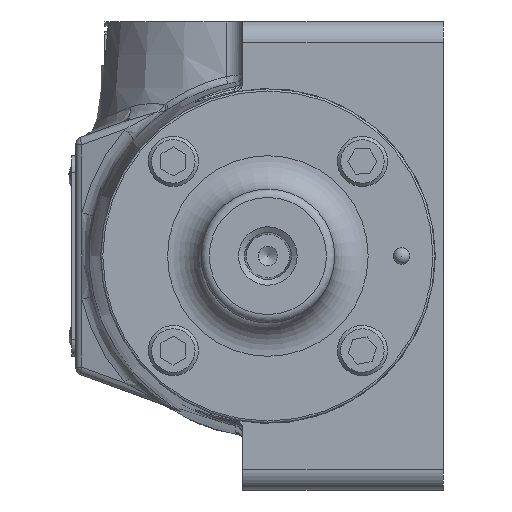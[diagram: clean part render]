
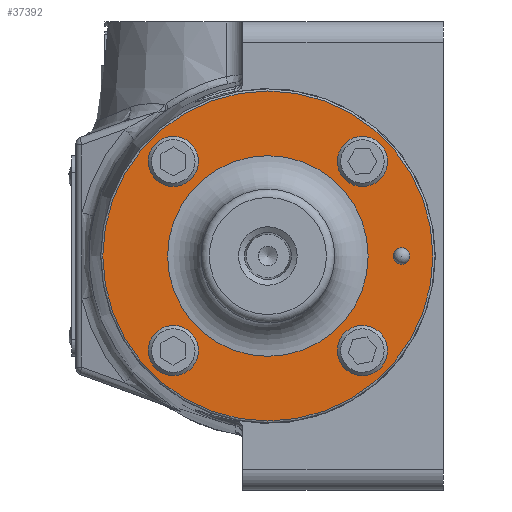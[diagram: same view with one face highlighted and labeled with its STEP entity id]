
A CAD part, left-side view. The second image highlights one B-rep face of the part: STEP entity #37392.
In plain terms, the highlighted planar face has unit normal (-1, 0, 0).
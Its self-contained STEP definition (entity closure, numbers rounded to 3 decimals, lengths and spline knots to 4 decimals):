
#2252=FACE_BOUND('',#5626,.T.);
#2253=FACE_BOUND('',#5627,.T.);
#2254=FACE_BOUND('',#5628,.T.);
#2255=FACE_BOUND('',#5629,.T.);
#2256=FACE_BOUND('',#5630,.T.);
#2257=FACE_BOUND('',#5631,.T.);
#2487=PLANE('',#39767);
#3360=FACE_OUTER_BOUND('',#5625,.T.);
#5625=EDGE_LOOP('',(#23880));
#5626=EDGE_LOOP('',(#23881));
#5627=EDGE_LOOP('',(#23882));
#5628=EDGE_LOOP('',(#23883));
#5629=EDGE_LOOP('',(#23884));
#5630=EDGE_LOOP('',(#23885));
#5631=EDGE_LOOP('',(#23886));
#8102=CIRCLE('',#39768,3.1353);
#8103=CIRCLE('',#39769,0.4763);
#8104=CIRCLE('',#39770,0.4763);
#8105=CIRCLE('',#39771,0.4763);
#8106=CIRCLE('',#39772,0.4763);
#8107=CIRCLE('',#39773,0.1588);
#8108=CIRCLE('',#39774,1.905);
#14729=VERTEX_POINT('',#54556);
#14730=VERTEX_POINT('',#54558);
#14731=VERTEX_POINT('',#54560);
#14732=VERTEX_POINT('',#54562);
#14733=VERTEX_POINT('',#54564);
#14734=VERTEX_POINT('',#54566);
#14735=VERTEX_POINT('',#54568);
#18215=EDGE_CURVE('',#14729,#14729,#8102,.T.);
#18216=EDGE_CURVE('',#14730,#14730,#8103,.T.);
#18217=EDGE_CURVE('',#14731,#14731,#8104,.T.);
#18218=EDGE_CURVE('',#14732,#14732,#8105,.T.);
#18219=EDGE_CURVE('',#14733,#14733,#8106,.T.);
#18220=EDGE_CURVE('',#14734,#14734,#8107,.T.);
#18221=EDGE_CURVE('',#14735,#14735,#8108,.T.);
#23880=ORIENTED_EDGE('',*,*,#18215,.F.);
#23881=ORIENTED_EDGE('',*,*,#18216,.T.);
#23882=ORIENTED_EDGE('',*,*,#18217,.T.);
#23883=ORIENTED_EDGE('',*,*,#18218,.T.);
#23884=ORIENTED_EDGE('',*,*,#18219,.T.);
#23885=ORIENTED_EDGE('',*,*,#18220,.T.);
#23886=ORIENTED_EDGE('',*,*,#18221,.F.);
#37392=ADVANCED_FACE('',(#3360,#2252,#2253,#2254,#2255,#2256,#2257),#2487,
 .F.);
#39767=AXIS2_PLACEMENT_3D('',#54555,#43699,#43700);
#39768=AXIS2_PLACEMENT_3D('',#54557,#43701,#43702);
#39769=AXIS2_PLACEMENT_3D('',#54559,#43703,#43704);
#39770=AXIS2_PLACEMENT_3D('',#54561,#43705,#43706);
#39771=AXIS2_PLACEMENT_3D('',#54563,#43707,#43708);
#39772=AXIS2_PLACEMENT_3D('',#54565,#43709,#43710);
#39773=AXIS2_PLACEMENT_3D('',#54567,#43711,#43712);
#39774=AXIS2_PLACEMENT_3D('',#54569,#43713,#43714);
#43699=DIRECTION('center_axis',(1.,0.,0.));
#43700=DIRECTION('ref_axis',(0.,0.,
-1.));
#43701=DIRECTION('center_axis',(1.,0.,0.));
#43702=DIRECTION('ref_axis',(0.,0.,
-1.));
#43703=DIRECTION('center_axis',(1.,0.,0.));
#43704=DIRECTION('ref_axis',(0.,-0.2,-0.98));
#43705=DIRECTION('center_axis',(1.,0.,0.));
#43706=DIRECTION('ref_axis',(0.,-0.488,-0.873));
#43707=DIRECTION('center_axis',(1.,0.,0.));
#43708=DIRECTION('ref_axis',(0.,-1.,-0.02));
#43709=DIRECTION('center_axis',(1.,0.,0.));
#43710=DIRECTION('ref_axis',(0.,-0.004,
-1.));
#43711=DIRECTION('center_axis',(1.,0.,0.));
#43712=DIRECTION('ref_axis',(0.,0.,
-1.));
#43713=DIRECTION('center_axis',(-1.,0.,0.));
#43714=DIRECTION('ref_axis',(0.,0.,
-1.));
#54555=CARTESIAN_POINT('Origin',(-6.1074,0.,0.));
#54556=CARTESIAN_POINT('',(-6.1074,0.,3.1353));
#54557=CARTESIAN_POINT('Origin',(-6.1074,0.,0.));
#54558=CARTESIAN_POINT('',(-6.1074,-1.7009,-1.3294));
#54559=CARTESIAN_POINT('Origin',(-6.1074,-1.7961,-1.7961));
#54560=CARTESIAN_POINT('',(-6.1074,2.0283,2.2119));
#54561=CARTESIAN_POINT('Origin',(-6.1074,1.7961,1.7961));
#54562=CARTESIAN_POINT('',(-6.1074,2.2722,-1.7864));
#54563=CARTESIAN_POINT('Origin',(-6.1074,1.7961,-1.7961));
#54564=CARTESIAN_POINT('',(-6.1074,-1.7941,2.2723));
#54565=CARTESIAN_POINT('Origin',(-6.1074,-1.7961,1.7961));
#54566=CARTESIAN_POINT('',(-6.1074,-2.54,-0.1588));
#54567=CARTESIAN_POINT('Origin',(-6.1074,-2.54,0.));
#54568=CARTESIAN_POINT('',(-6.1074,0.,1.905));
#54569=CARTESIAN_POINT('Origin',(-6.1074,0.,0.));
